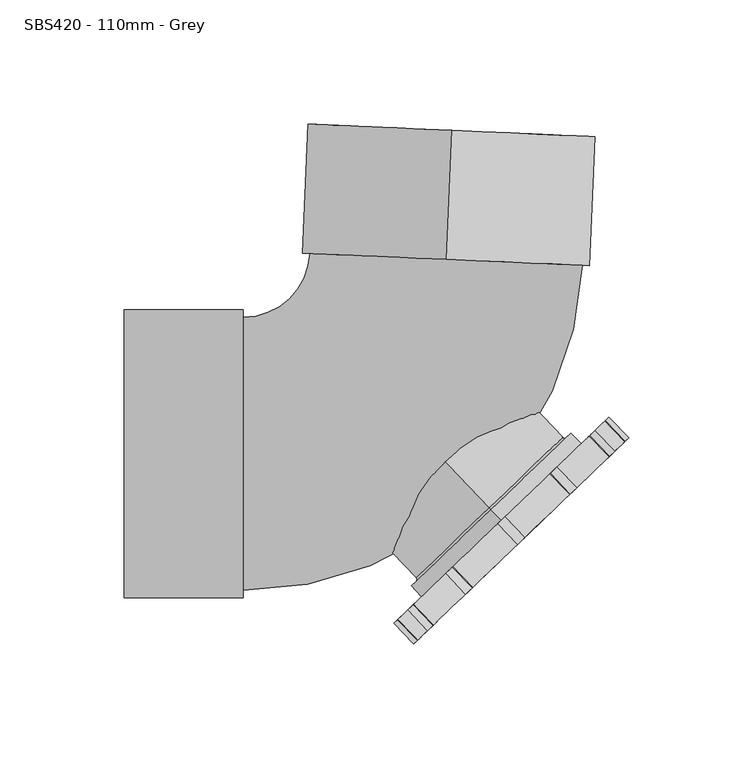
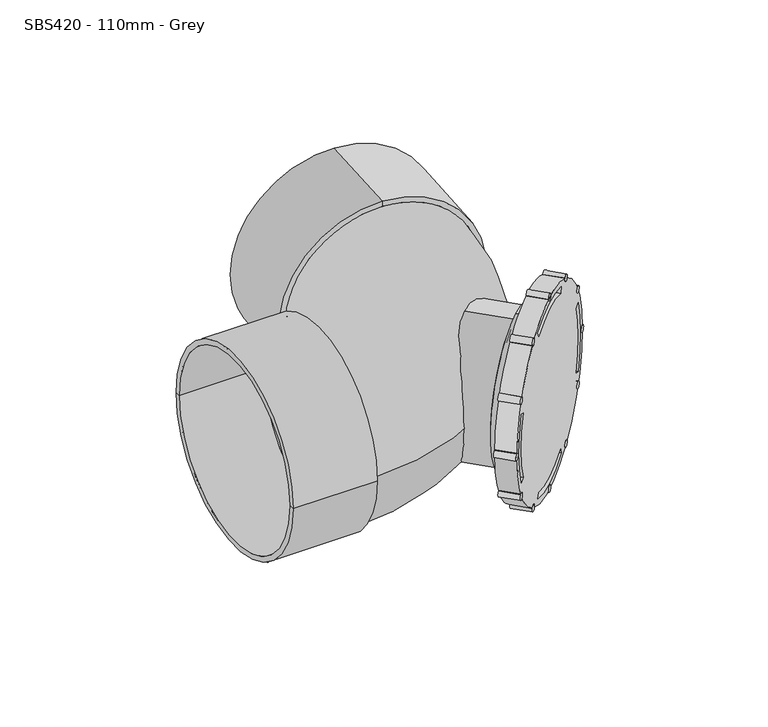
"""IFC4 building model written with IfcOpenShell, lengths in millimetres: pipe fitting geometry, MarleyPlumbingAndDrainage_PipeFitting_RearAccessBend87-5 : SBS420 - 110mm - Grey."""

from ifc_helpers import new_model, si_unit, point, frame, frame_2d, origin, place, context, project, spatial, polyline, circle_curve, ellipse_curve, trimmed, segment, composite_curve, outline, extrude, source, transform, mapped, element, save
from ifc_brep_helpers import plane_surface, cylinder_surface, revolved_surface, advanced_brep


def sbs420_110mm_grey_e3ce7930(model_context):
    return source(origin(), model_context, "Body", "SolidModel", [
        extrude(outline(composite_curve([segment(trimmed(circle_curve(frame_2d((-1e-07, -2.0)), 2.0), [point((-1e-07, -4.0))], [point((0.0, 0.0))], False, "CARTESIAN"), True, "CONTINUOUS"), segment(trimmed(circle_curve(frame_2d((-1e-07, -2.0)), 2.0), [point((0.0, 0.0))], [point((-1e-07, -4.0))], False, "CARTESIAN"), True, "CONTINUOUS")], self_intersect=False)), frame((69.0624587, 0.3028879, 27.2679492), z_axis=(-0.6915130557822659, 0.7223639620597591, 0.0), x_axis=(0.6255855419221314, 0.5988678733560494, 0.4999999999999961)), (0.0, 0.0, 1.0), 11.5),
        extrude(outline(composite_curve([segment(trimmed(circle_curve(frame_2d((0.0, -2.0)), 2.0), [point((0.0, -4.0))], [point((0.0, 0.0))], False, "CARTESIAN"), True, "CONTINUOUS"), segment(trimmed(circle_curve(frame_2d((0.0, -2.0)), 2.0), [point((0.0, 0.0))], [point((0.0, -4.0))], False, "CARTESIAN"), True, "CONTINUOUS")], self_intersect=False)), frame((73.9532431, 4.9847954, -2.0), z_axis=(-0.6915130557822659, 0.7223639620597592, 0.0), x_axis=(0.7223639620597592, 0.6915130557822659, 0.0)), (0.0, 0.0, 1.0), 11.5),
        extrude(outline(composite_curve([segment(trimmed(circle_curve(frame_2d((1e-07, -2.0)), 2.0), [point((1e-07, -4.0))], [point((0.0, 0.0))], False, "CARTESIAN"), True, "CONTINUOUS"), segment(trimmed(circle_curve(frame_2d((1e-07, -2.0)), 2.0), [point((0.0, 0.0))], [point((1e-07, -4.0))], False, "CARTESIAN"), True, "CONTINUOUS")], self_intersect=False)), frame((67.6177307, -1.0801383, -30.7320508), z_axis=(-0.6915130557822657, 0.7223639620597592, 0.0), x_axis=(0.6255855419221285, 0.5988678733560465, -0.5000000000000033)), (0.0, 0.0, 1.0), 11.5),
        extrude(outline(composite_curve([segment(trimmed(circle_curve(frame_2d((0.0, -2.0)), 2.0), [point((0.0, -4.0))], [point((0.0, 0.0))], False, "CARTESIAN"), True, "CONTINUOUS"), segment(trimmed(circle_curve(frame_2d((0.0, -2.0)), 2.0), [point((0.0, 0.0))], [point((0.0, -4.0))], False, "CARTESIAN"), True, "CONTINUOUS")], self_intersect=False)), frame((51.7535171, -16.266819, -51.2294734), z_axis=(-0.6915130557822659, 0.7223639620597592, 0.0), x_axis=(0.3611819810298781, 0.3457565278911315, -0.8660254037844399)), (0.0, 0.0, 1.0), 11.5),
        extrude(outline(composite_curve([segment(trimmed(circle_curve(frame_2d((0.0, -2.0)), 2.0), [point((0.0, -4.0000001))], [point((0.0, 0.0))], False, "CARTESIAN"), True, "CONTINUOUS"), segment(trimmed(circle_curve(frame_2d((0.0, -2.0)), 2.0), [point((0.0, 0.0))], [point((0.0, -4.0000001))], False, "CARTESIAN"), True, "CONTINUOUS")], self_intersect=False)), frame((30.6114053, -36.505988, -58.0), z_axis=(-0.6915130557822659, 0.7223639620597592, 0.0), x_axis=(0.0, 0.0, -1.0)), (0.0, 0.0, 1.0), 11.5),
        extrude(outline(composite_curve([segment(trimmed(circle_curve(frame_2d((0.0, -2.0)), 2.0), [point((0.0, -4.0))], [point((0.0, 0.0))], False, "CARTESIAN"), True, "CONTINUOUS"), segment(trimmed(circle_curve(frame_2d((0.0, -2.0)), 2.0), [point((0.0, 0.0))], [point((0.0, -4.0))], False, "CARTESIAN"), True, "CONTINUOUS")], self_intersect=False)), frame((9.8564073, -56.3745762, -49.2294734), z_axis=(-0.6915130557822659, 0.7223639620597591, 0.0), x_axis=(-0.3611819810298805, -0.34575652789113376, -0.866025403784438)), (0.0, 0.0, 1.0), 11.5),
        extrude(outline(composite_curve([segment(trimmed(circle_curve(frame_2d((0.0, -2.0)), 2.0), [point((0.0, -4.0))], [point((0.0, 0.0))], False, "CARTESIAN"), True, "CONTINUOUS"), segment(trimmed(circle_curve(frame_2d((0.0, -2.0)), 2.0), [point((0.0, 0.0))], [point((0.0, -4.0))], False, "CARTESIAN"), True, "CONTINUOUS")], self_intersect=False)), frame((-4.9501921, -70.5488116, -27.2679492), z_axis=(-0.6915130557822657, 0.7223639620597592, 0.0), x_axis=(-0.6255855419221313, -0.5988678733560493, -0.4999999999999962)), (0.0, 0.0, 1.0), 11.5),
        extrude(outline(composite_curve([segment(trimmed(circle_curve(frame_2d((0.0, -2.0)), 2.0), [point((0.0, -4.0))], [point((0.0, 0.0))], False, "CARTESIAN"), True, "CONTINUOUS"), segment(trimmed(circle_curve(frame_2d((0.0, -2.0)), 2.0), [point((0.0, 0.0))], [point((0.0, -4.0))], False, "CARTESIAN"), True, "CONTINUOUS")], self_intersect=False)), frame((-9.8409765, -75.2307191, 2.0), z_axis=(-0.6915130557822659, 0.7223639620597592, 0.0), x_axis=(-0.7223639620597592, -0.6915130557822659, 0.0)), (0.0, 0.0, 1.0), 11.5),
        extrude(outline(composite_curve([segment(trimmed(circle_curve(frame_2d((0.0, -2.0)), 2.0), [point((0.0, -4.0))], [point((0.0, 0.0))], False, "CARTESIAN"), True, "CONTINUOUS"), segment(trimmed(circle_curve(frame_2d((0.0, -2.0)), 2.0), [point((0.0, 0.0))], [point((0.0, -4.0))], False, "CARTESIAN"), True, "CONTINUOUS")], self_intersect=False)), frame((-3.5054642, -69.1657855, 30.7320508), z_axis=(-0.6915130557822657, 0.7223639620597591, 0.0), x_axis=(-0.6255855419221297, -0.5988678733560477, 0.5000000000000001)), (0.0, 0.0, 1.0), 11.5),
        extrude(outline(composite_curve([segment(trimmed(circle_curve(frame_2d((0.0, -2.0)), 2.0), [point((0.0, -4.0))], [point((0.0, 0.0))], False, "CARTESIAN"), True, "CONTINUOUS"), segment(trimmed(circle_curve(frame_2d((0.0, -2.0)), 2.0), [point((0.0, 0.0))], [point((0.0, -4.0))], False, "CARTESIAN"), True, "CONTINUOUS")], self_intersect=False)), frame((12.3587495, -53.9791047, 51.2294734), z_axis=(-0.6915130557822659, 0.7223639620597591, 0.0), x_axis=(-0.3611819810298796, -0.3457565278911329, 0.8660254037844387)), (0.0, 0.0, 1.0), 11.5),
        extrude(outline(composite_curve([segment(trimmed(circle_curve(frame_2d((0.0, -2.0)), 2.0), [point((0.0, -4.0))], [point((0.0, 0.0))], False, "CARTESIAN"), True, "CONTINUOUS"), segment(trimmed(circle_curve(frame_2d((0.0, -2.0)), 2.0), [point((0.0, 0.0))], [point((0.0, -4.0))], False, "CARTESIAN"), True, "CONTINUOUS")], self_intersect=False)), frame((54.2558593, -13.8713475, 49.2294734), z_axis=(-0.6915130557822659, 0.7223639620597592, 0.0), x_axis=(0.36118198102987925, 0.3457565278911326, 0.8660254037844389)), (0.0, 0.0, 1.0), 11.5),
        extrude(outline(composite_curve([segment(trimmed(circle_curve(frame_2d((0.0, -2.0)), 2.0), [point((0.0, -4.0000001))], [point((0.0, 0.0))], False, "CARTESIAN"), True, "CONTINUOUS"), segment(trimmed(circle_curve(frame_2d((0.0, -2.0)), 2.0), [point((0.0, 0.0))], [point((0.0, -4.0000001))], False, "CARTESIAN"), True, "CONTINUOUS")], self_intersect=False)), frame((33.5008612, -33.7399357, 58.0), z_axis=(-0.6915130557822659, 0.7223639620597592, 0.0), x_axis=(0.0, 0.0, 1.0)), (0.0, 0.0, 1.0), 11.5),
        advanced_brep(
        [(-9.8409765, -75.2307191, 0.0), (73.9532431, 4.9847954, 0.0), (16.990332, -49.545329, -50.3514345), (17.9578605, -48.6191219, -47.1178562), (46.154406, -21.6268018, -47.1178562), (47.1219345, -20.7005947, -50.3514345), (68.428195, -0.3042875, -20.8562471), (66.0923745, -2.5403492, -19.5168551), (66.0923745, -2.5403492, 19.5168551), (68.428195, -0.3042875, 20.8562471), (-1.980108, -67.7055745, 19.5168551), (-1.980108, -67.7055745, -19.5168551), (-4.3159285, -69.9416362, -20.8562471), (-4.3159285, -69.9416362, 20.8562471), (17.9578605, -48.6191219, 47.1178562), (16.990332, -49.545329, 50.3514345), (47.1219345, -20.7005947, 50.3514345), (46.154406, -21.6268018, 47.1178562), (-17.7933767, -66.9235335, 0.0), (66.0008429, 13.2919809, 0.0), (24.1037331, -26.8157763, -44.5), (24.1037331, -26.8157763, 44.5), (19.9546548, -22.4815925, -44.5), (19.9546548, -22.4815925, 44.5), (19.9546548, -22.4815925, -42.0), (19.9546548, -22.4815925, 42.0), (19.2631417, -21.7592286, -41.0), (19.2631417, -21.7592286, 41.0), (-9.4346501, 8.2188759, -41.0), (-9.4346501, 8.2188759, 41.0), (-9.4346501, 8.2188759, 0.0), (13.3200776, -43.7744307, -47.1178562), (12.3525491, -44.7006378, -50.3514345), (42.4841516, -15.8559035, -50.3514345), (41.5166231, -16.7821106, -47.1178562), (61.4545916, 2.3043421, -19.5168551), (63.7904121, 4.5404037, -20.8562471), (63.7904121, 4.5404037, 20.8562471), (61.4545916, 2.3043421, 19.5168551), (-6.6178909, -62.8608833, -19.5168551), (-6.6178909, -62.8608833, 19.5168551), (-8.9537114, -65.096945, 20.8562471), (-8.9537114, -65.096945, -20.8562471), (12.3525491, -44.7006378, 50.3514345), (13.3200776, -43.7744307, 47.1178562), (41.5166231, -16.7821106, 47.1178562), (42.4841516, -15.8559035, 50.3514345)],
        [
            (0, 1, circle_curve(frame((32.0561333, -35.1229619, 0.0), z_axis=(0.6915130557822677, -0.7223639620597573, 0.0), x_axis=(0.7223639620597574, 0.6915130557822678, 0.0)), 58.0)),
            (1, 0, circle_curve(frame((32.0561333, -35.1229619, 0.0), z_axis=(0.6915130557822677, -0.7223639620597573, 0.0), x_axis=(0.7223639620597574, 0.6915130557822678, 0.0)), 58.0)),
            (2, 3),
            (3, 4, circle_curve(frame((32.0561333, -35.1229619, 0.0), z_axis=(0.6915130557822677, -0.7223639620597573, 0.0), x_axis=(0.7223639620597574, 0.6915130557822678, 0.0)), 51.0)),
            (4, 5),
            (5, 2, circle_curve(frame((32.0561333, -35.1229619, 0.0), z_axis=(-0.6915130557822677, 0.7223639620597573, 0.0), x_axis=(0.7223639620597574, 0.6915130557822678, 0.0)), 54.5)),
            (6, 7),
            (7, 8, circle_curve(frame((32.0561333, -35.1229619, 0.0), z_axis=(0.6915130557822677, -0.7223639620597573, 0.0), x_axis=(0.7223639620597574, 0.6915130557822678, 0.0)), 51.0)),
            (8, 9),
            (9, 6, circle_curve(frame((32.0561333, -35.1229619, 0.0), z_axis=(-0.6915130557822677, 0.7223639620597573, 0.0), x_axis=(0.7223639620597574, 0.6915130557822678, 0.0)), 54.5)),
            (10, 11, circle_curve(frame((32.0561333, -35.1229619, 0.0), z_axis=(0.6915130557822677, -0.7223639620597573, 0.0), x_axis=(0.7223639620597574, 0.6915130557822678, 0.0)), 51.0)),
            (11, 12),
            (12, 13, circle_curve(frame((32.0561333, -35.1229619, 0.0), z_axis=(-0.6915130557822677, 0.7223639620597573, 0.0), x_axis=(0.7223639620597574, 0.6915130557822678, 0.0)), 54.5)),
            (13, 10),
            (14, 15),
            (15, 16, circle_curve(frame((32.0561333, -35.1229619, 0.0), z_axis=(-0.6915130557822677, 0.7223639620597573, 0.0), x_axis=(0.7223639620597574, 0.6915130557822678, 0.0)), 54.5)),
            (16, 17),
            (17, 14, circle_curve(frame((32.0561333, -35.1229619, 0.0), z_axis=(0.6915130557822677, -0.7223639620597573, 0.0), x_axis=(0.7223639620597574, 0.6915130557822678, 0.0)), 51.0)),
            (18, 19, circle_curve(frame((24.1037331, -26.8157763, 0.0), z_axis=(-0.6915130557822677, 0.7223639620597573, 0.0), x_axis=(0.7223639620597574, 0.6915130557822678, 0.0)), 58.0)),
            (19, 18, circle_curve(frame((24.1037331, -26.8157763, 0.0), z_axis=(-0.6915130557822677, 0.7223639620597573, 0.0), x_axis=(0.7223639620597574, 0.6915130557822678, 0.0)), 58.0)),
            (20, 21, circle_curve(frame((24.1037331, -26.8157763, 0.0), z_axis=(0.6915130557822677, -0.7223639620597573, 0.0), x_axis=(0.0, 0.0, 1.0000000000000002)), 44.5)),
            (21, 20, circle_curve(frame((24.1037331, -26.8157763, 0.0), z_axis=(0.6915130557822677, -0.7223639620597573, 0.0), x_axis=(0.0, 0.0, 1.0000000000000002)), 44.5)),
            (0, 18),
            (19, 1),
            (22, 23, circle_curve(frame((19.9546548, -22.4815925, 0.0), z_axis=(0.6915130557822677, -0.7223639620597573, 0.0), x_axis=(0.0, 0.0, 1.0000000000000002)), 44.5)),
            (23, 21),
            (20, 22),
            (23, 22, circle_curve(frame((19.9546548, -22.4815925, 0.0), z_axis=(0.6915130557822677, -0.7223639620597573, 0.0), x_axis=(0.0, 0.0, 1.0000000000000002)), 44.5)),
            (22, 24),
            (24, 25, circle_curve(frame((19.9546548, -22.4815925, 0.0), z_axis=(0.6915130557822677, -0.7223639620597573, 0.0), x_axis=(0.0, 0.0, 1.0000000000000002)), 42.0)),
            (25, 23),
            (25, 24, circle_curve(frame((19.9546548, -22.4815925, 0.0), z_axis=(0.6915130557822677, -0.7223639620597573, 0.0), x_axis=(0.0, 0.0, 1.0000000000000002)), 42.0)),
            (24, 26, circle_curve(frame((19.2631417, -21.7592286, -42.0), z_axis=(-0.7223639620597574, -0.6915130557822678, 0.0), x_axis=(0.6915130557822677, -0.7223639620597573, 0.0)), 1.0)),
            (26, 27, circle_curve(frame((19.2631417, -21.7592286, 0.0), z_axis=(0.6915130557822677, -0.7223639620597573, 0.0), x_axis=(0.0, 0.0, 1.0000000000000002)), 41.0)),
            (27, 25, circle_curve(frame((19.2631417, -21.7592286, 42.0), z_axis=(-0.7223639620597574, -0.6915130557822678, 0.0), x_axis=(0.6915130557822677, -0.7223639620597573, 0.0)), 1.0)),
            (27, 26, circle_curve(frame((19.2631417, -21.7592286, 0.0), z_axis=(0.6915130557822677, -0.7223639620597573, 0.0), x_axis=(0.0, 0.0, 1.0000000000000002)), 41.0)),
            (26, 28),
            (28, 29, circle_curve(frame((-9.4346501, 8.2188759, 0.0), z_axis=(0.6915130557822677, -0.7223639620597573, 0.0), x_axis=(0.0, 0.0, 1.0000000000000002)), 41.0)),
            (29, 27),
            (29, 28, circle_curve(frame((-9.4346501, 8.2188759, 0.0), z_axis=(0.6915130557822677, -0.7223639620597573, 0.0), x_axis=(0.0, 0.0, 1.0000000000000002)), 41.0)),
            (28, 30),
            (30, 29),
            (31, 32),
            (32, 33, circle_curve(frame((27.4183504, -30.2782706, 0.0), z_axis=(0.6915130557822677, -0.7223639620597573, 0.0), x_axis=(0.7223639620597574, 0.6915130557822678, 0.0)), 54.5)),
            (33, 34),
            (34, 31, circle_curve(frame((27.4183504, -30.2782706, 0.0), z_axis=(-0.6915130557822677, 0.7223639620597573, 0.0), x_axis=(0.7223639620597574, 0.6915130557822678, 0.0)), 51.0)),
            (35, 36),
            (36, 37, circle_curve(frame((27.4183504, -30.2782706, 0.0), z_axis=(0.6915130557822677, -0.7223639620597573, 0.0), x_axis=(0.7223639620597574, 0.6915130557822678, 0.0)), 54.5)),
            (37, 38),
            (38, 35, circle_curve(frame((27.4183504, -30.2782706, 0.0), z_axis=(-0.6915130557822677, 0.7223639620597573, 0.0), x_axis=(0.7223639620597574, 0.6915130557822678, 0.0)), 51.0)),
            (39, 40, circle_curve(frame((27.4183504, -30.2782706, 0.0), z_axis=(-0.6915130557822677, 0.7223639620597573, 0.0), x_axis=(0.7223639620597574, 0.6915130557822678, 0.0)), 51.0)),
            (40, 41),
            (41, 42, circle_curve(frame((27.4183504, -30.2782706, 0.0), z_axis=(0.6915130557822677, -0.7223639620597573, 0.0), x_axis=(0.7223639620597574, 0.6915130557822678, 0.0)), 54.5)),
            (42, 39),
            (43, 44),
            (44, 45, circle_curve(frame((27.4183504, -30.2782706, 0.0), z_axis=(-0.6915130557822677, 0.7223639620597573, 0.0), x_axis=(0.7223639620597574, 0.6915130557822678, 0.0)), 51.0)),
            (45, 46),
            (46, 43, circle_curve(frame((27.4183504, -30.2782706, 0.0), z_axis=(0.6915130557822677, -0.7223639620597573, 0.0), x_axis=(0.7223639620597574, 0.6915130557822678, 0.0)), 54.5)),
            (31, 3),
            (2, 32),
            (5, 33),
            (4, 34),
            (35, 7),
            (6, 36),
            (9, 37),
            (8, 38),
            (39, 11),
            (10, 40),
            (13, 41),
            (12, 42),
            (43, 15),
            (14, 44),
            (17, 45),
            (16, 46),
        ],
        [
            plane_surface(frame((73.9532431, 4.9847954, 0.0), z_axis=(0.6915130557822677, -0.7223639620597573, 0.0), x_axis=(0.0, 0.0, 1.0))),
            plane_surface(frame((66.0008429, 13.2919809, 0.0), z_axis=(-0.6915130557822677, 0.7223639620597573, 0.0), x_axis=(0.0, 0.0, -1.0))),
            cylinder_surface(frame((24.1037331, -26.8157763, 0.0), z_axis=(0.6915130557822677, -0.7223639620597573, 0.0), x_axis=(0.7223639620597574, 0.6915130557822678, 0.0)), 58.0),
            cylinder_surface(frame((-810.4447501, 844.9649426, 0.0), z_axis=(-0.6915130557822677, 0.7223639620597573, 0.0), x_axis=(0.0, 0.0, 1.0000000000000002)), 44.5),
            plane_surface(frame((19.9546548, -22.4815925, 0.0), z_axis=(-0.6915130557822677, 0.7223639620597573, 0.0), x_axis=(0.0, 0.0, 1.0))),
            revolved_surface(trimmed(ellipse_curve(frame((19.2631417, -21.7592286, 42.0), z_axis=(0.7223639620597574, 0.6915130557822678, 0.0), x_axis=(0.6915130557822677, -0.7223639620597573, 0.0)), 1.0, 1.0), [point((19.9546548, -22.4815925, 42.0))], [point((19.2631417, -21.7592286, 41.0))], True, "CARTESIAN"), (-810.4447501, 844.9649426, 0.0), (-0.6915130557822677, 0.7223639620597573, 0.0)),
            cylinder_surface(frame((-810.4447501, 844.9649426, 0.0), z_axis=(-0.6915130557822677, 0.7223639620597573, 0.0), x_axis=(0.0, 0.0, 1.0000000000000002)), 41.0),
            plane_surface(frame((-9.4346501, 8.2188759, 0.0), z_axis=(-0.6915130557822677, 0.7223639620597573, 0.0), x_axis=(0.0, 0.0, 1.0))),
            plane_surface(frame((12.3525491, -44.7006378, -50.3514345), z_axis=(0.6915130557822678, -0.7223639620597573, 0.0), x_axis=(0.2764367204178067, 0.2646305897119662, 0.923879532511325))),
            plane_surface(frame((17.9578605, -48.6191219, -47.1178562), z_axis=(0.6673772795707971, 0.6388747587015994, -0.3826834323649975), x_axis=(-0.6915130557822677, 0.7223639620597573, 0.0))),
            revolved_surface(polyline([(71.4249692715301, 2.564499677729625, 0.0), (66.78718632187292, 7.409190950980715, 0.0)]), (27.4183504, -30.2782706, 0.0), (0.6915130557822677, -0.7223639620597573, 0.0)),
            plane_surface(frame((47.1219345, -20.7005947, -50.3514345), z_axis=(-0.6673772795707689, -0.6388747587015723, -0.38268343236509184), x_axis=(-0.6915130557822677, 0.7223639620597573, 0.0))),
            cylinder_surface(frame((27.4183504, -30.2782706, 0.0), z_axis=(-0.6915130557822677, 0.7223639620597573, 0.0), x_axis=(0.7223639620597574, 0.6915130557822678, 0.0)), 51.0),
            plane_surface(frame((66.0923745, -2.5403492, -19.5168551), z_axis=(0.2764367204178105, 0.26463058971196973, 0.9238795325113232), x_axis=(-0.6915130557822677, 0.7223639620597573, 0.0))),
            revolved_surface(polyline([(71.42496921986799, 2.564499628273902, 0.0), (66.78718628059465, 7.409190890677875, 0.0)]), (24.1037331, -26.8157763, 0.0), (0.6915130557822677, -0.7223639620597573, 0.0)),
            plane_surface(frame((68.428195, -0.3042875, 20.8562471), z_axis=(0.27643672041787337, 0.26463058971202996, -0.9238795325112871), x_axis=(-0.6915130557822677, 0.7223639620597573, 0.0))),
            cylinder_surface(frame((24.1037331, -26.8157763, 0.0), z_axis=(-0.6915130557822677, 0.7223639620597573, 0.0), x_axis=(0.7223639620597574, 0.6915130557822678, 0.0)), 51.0),
            plane_surface(frame((-1.980108, -67.7055745, 19.5168551), z_axis=(-0.2764367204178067, -0.2646305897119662, -0.9238795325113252), x_axis=(-0.6915130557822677, 0.7223639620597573, 0.0))),
            revolved_surface(polyline([(71.42496921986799, 2.564499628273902, 0.0), (66.78718627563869, 7.409190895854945, 0.0)]), (24.1037331, -26.8157763, 0.0), (0.6915130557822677, -0.7223639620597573, 0.0)),
            plane_surface(frame((-4.3159285, -69.9416362, -20.8562471), z_axis=(-0.27643672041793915, -0.2646305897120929, 0.9238795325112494), x_axis=(-0.6915130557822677, 0.7223639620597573, 0.0))),
            plane_surface(frame((16.990332, -49.545329, 50.3514345), z_axis=(0.6673772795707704, 0.6388747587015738, 0.38268343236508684), x_axis=(-0.6915130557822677, 0.7223639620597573, 0.0))),
            plane_surface(frame((46.154406, -21.6268018, 47.1178562), z_axis=(-0.667377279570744, -0.6388747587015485, 0.382683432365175), x_axis=(-0.6915130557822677, 0.7223639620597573, 0.0))),
            revolved_surface(polyline([(71.42496921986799, 2.564499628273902, 0.0), (66.78718627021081, 7.409190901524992, 0.0)]), (24.1037331, -26.8157763, 0.0), (0.6915130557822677, -0.7223639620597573, 0.0)),
        ],
        [
            (0, [[1, 2], [3, 4, 5, 6], [7, 8, 9, 10], [11, 12, 13, 14], [15, 16, 17, 18]]),
            (1, [[19, 20], [21, 22]]),
            (2, [[-1, 23, -20, 24]]),
            (2, [[-2, -24, -19, -23]]),
            (3, [[25, 26, -21, 27]]),
            (3, [[-26, 28, -27, -22]]),
            (4, [[-25, 29, 30, 31]]),
            (4, [[-28, -31, 32, -29]]),
            (5, [[-30, 33, 34, 35]]),
            (5, [[-32, -35, 36, -33]]),
            (6, [[-34, 37, 38, 39]]),
            (6, [[-36, -39, 40, -37]]),
            (7, [[-38, 41, 42]]),
            (7, [[-40, -42, -41]]),
            (8, [[43, 44, 45, 46]]),
            (8, [[47, 48, 49, 50]]),
            (8, [[51, 52, 53, 54]]),
            (8, [[55, 56, 57, 58]]),
            (9, [[-43, 59, -3, 60]]),
            (10, [[-44, -60, -6, 61]]),
            (11, [[-45, -61, -5, 62]]),
            (12, [[-46, -62, -4, -59]]),
            (13, [[-47, 63, -7, 64]]),
            (14, [[-48, -64, -10, 65]]),
            (15, [[-49, -65, -9, 66]]),
            (16, [[-50, -66, -8, -63]]),
            (16, [[-51, 67, -11, 68]]),
            (17, [[-52, -68, -14, 69]]),
            (18, [[-53, -69, -13, 70]]),
            (19, [[-54, -70, -12, -67]]),
            (20, [[-55, 71, -15, 72]]),
            (16, [[-56, -72, -18, 73]]),
            (21, [[-57, -73, -17, 74]]),
            (22, [[-58, -74, -16, -71]]),
        ],
    ),
        advanced_brep(
        [(4.1212757, 130.2780797, -55.1429746), (4.1212757, 130.2780797, 54.8570254), (4.1212757, 130.2780797, 57.8570254), (4.1212757, 130.2780797, -58.1429746), (1.8530676, 78.3275722, -55.1429746), (1.8530676, 78.3275722, 54.8570254), (1.8530676, 78.3275722, -58.1429746), (1.8530676, 78.3275722, 57.8570254)],
        [
            (0, 1, circle_curve(frame((4.1212757, 130.2780797, -0.1429746), z_axis=(-0.043619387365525, -0.9990482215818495, 0.0), x_axis=(0.0, 0.0, 1.0)), 55.0)),
            (1, 2),
            (2, 3, circle_curve(frame((4.1212757, 130.2780797, -0.1429746), z_axis=(0.043619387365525, 0.9990482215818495, 0.0), x_axis=(0.0, 0.0, 1.0)), 58.0)),
            (3, 0),
            (1, 0, circle_curve(frame((4.1212757, 130.2780797, -0.1429746), z_axis=(-0.043619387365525, -0.9990482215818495, 0.0), x_axis=(0.0, 0.0, 1.0)), 55.0)),
            (3, 2, circle_curve(frame((4.1212757, 130.2780797, -0.1429746), z_axis=(0.043619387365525, 0.9990482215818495, 0.0), x_axis=(0.0, 0.0, 1.0)), 58.0)),
            (4, 5, circle_curve(frame((1.8530676, 78.3275722, -0.1429746), z_axis=(-0.043619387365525, -0.9990482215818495, 0.0), x_axis=(0.0, 0.0, 1.0)), 55.0)),
            (5, 1),
            (0, 4),
            (5, 4, circle_curve(frame((1.8530676, 78.3275722, -0.1429746), z_axis=(-0.043619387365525, -0.9990482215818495, 0.0), x_axis=(0.0, 0.0, 1.0)), 55.0)),
            (6, 7, circle_curve(frame((1.8530676, 78.3275722, -0.1429746), z_axis=(-0.043619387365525, -0.9990482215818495, 0.0), x_axis=(0.0, 0.0, 1.0)), 58.0)),
            (7, 5),
            (4, 6),
            (7, 6, circle_curve(frame((1.8530676, 78.3275722, -0.1429746), z_axis=(-0.043619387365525, -0.9990482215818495, 0.0), x_axis=(0.0, 0.0, 1.0)), 58.0)),
            (2, 7),
            (6, 3),
        ],
        [
            plane_surface(frame((4.1212757, 130.2780797, -0.1429746), z_axis=(0.043619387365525, 0.9990482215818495, 0.0), x_axis=(0.0, 0.0, 1.0))),
            revolved_surface(polyline([(4.121275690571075, 130.2780797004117, 54.8570254), (1.85306754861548, 78.32757220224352, 54.8570254)]), (4.7755665, 145.263803, -0.1429746), (0.043619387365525, 0.9990482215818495, 0.0)),
            plane_surface(frame((1.8530676, 78.3275722, -0.1429746), z_axis=(-0.043619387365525, -0.9990482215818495, 0.0), x_axis=(0.0, 0.0, 1.0))),
            cylinder_surface(frame((4.7755665, 145.263803, -0.1429746), z_axis=(0.043619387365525, 0.9990482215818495, 0.0), x_axis=(0.0, 0.0, 1.0)), 58.0),
        ],
        [
            (0, [[1, 2, 3, 4]]),
            (0, [[5, -4, 6, -2]]),
            (1, [[7, 8, -1, 9]]),
            (1, [[10, -9, -5, -8]]),
            (2, [[11, 12, -7, 13]]),
            (2, [[14, -13, -10, -12]]),
            (3, [[-3, 15, -11, 16]]),
            (3, [[-6, -16, -14, -15]]),
        ],
    ),
        advanced_brep(
        [(-128.0689818, 55.0, -0.1429746), (-128.0689818, -55.0, -0.1429746), (-128.0689818, -58.0, -0.1429746), (-128.0689818, 58.0, -0.1429746), (-79.9689818, 55.0, -0.1429746), (-79.9689818, -55.0, -0.1429746), (-79.9689818, 58.0, -0.1429746), (-79.9689818, -58.0, -0.1429746)],
        [
            (0, 1, circle_curve(frame((-128.0689818, 0.0, -0.1429746), z_axis=(1.0, 0.0, 0.0), x_axis=(0.0, -1.0, 0.0)), 55.0)),
            (1, 2),
            (2, 3, circle_curve(frame((-128.0689818, 0.0, -0.1429746), z_axis=(-1.0, 0.0, 0.0), x_axis=(0.0, -1.0, 0.0)), 58.0)),
            (3, 0),
            (1, 0, circle_curve(frame((-128.0689818, 0.0, -0.1429746), z_axis=(1.0, 0.0, 0.0), x_axis=(0.0, -1.0, 0.0)), 55.0)),
            (3, 2, circle_curve(frame((-128.0689818, 0.0, -0.1429746), z_axis=(-1.0, 0.0, 0.0), x_axis=(0.0, -1.0, 0.0)), 58.0)),
            (4, 5, circle_curve(frame((-79.9689818, 0.0, -0.1429746), z_axis=(1.0, 0.0, 0.0), x_axis=(0.0, -1.0, 0.0)), 55.0)),
            (5, 1),
            (0, 4),
            (5, 4, circle_curve(frame((-79.9689818, 0.0, -0.1429746), z_axis=(1.0, 0.0, 0.0), x_axis=(0.0, -1.0, 0.0)), 55.0)),
            (6, 7, circle_curve(frame((-79.9689818, 0.0, -0.1429746), z_axis=(1.0, 0.0, 0.0), x_axis=(0.0, -1.0, 0.0)), 58.0)),
            (7, 5),
            (4, 6),
            (7, 6, circle_curve(frame((-79.9689818, 0.0, -0.1429746), z_axis=(1.0, 0.0, 0.0), x_axis=(0.0, -1.0, 0.0)), 58.0)),
            (2, 7),
            (6, 3),
        ],
        [
            plane_surface(frame((-128.0689818, 0.0, -0.1429746), z_axis=(-1.0, 0.0, 0.0), x_axis=(0.0, -1.0, 0.0))),
            revolved_surface(polyline([(-128.0689818, -55.0, -0.1429746), (-79.9689818, -55.0, -0.1429746)]), (-143.0689818, 0.0, -0.1429746), (-1.0, 0.0, 0.0)),
            plane_surface(frame((-79.9689818, 0.0, -0.1429746), z_axis=(1.0, 0.0, 0.0), x_axis=(0.0, -1.0, 0.0))),
            cylinder_surface(frame((-143.0689818, 0.0, -0.1429746), z_axis=(-1.0, 0.0, 0.0), x_axis=(0.0, -1.0, 0.0)), 58.0),
        ],
        [
            (0, [[1, 2, 3, 4]]),
            (0, [[5, -4, 6, -2]]),
            (1, [[7, 8, -1, 9]]),
            (1, [[10, -9, -5, -8]]),
            (2, [[11, 12, -7, 13]]),
            (2, [[14, -13, -10, -12]]),
            (3, [[-3, 15, -11, 16]]),
            (3, [[-6, -16, -14, -15]]),
        ],
    ),
        advanced_brep(
        [(-79.9689818, -55.0, 0.0), (-79.9689818, 55.0, 0.0), (56.8007198, 75.9285059, 0.0), (-53.0945846, 80.7266385, 0.0)],
        [
            (0, 1, circle_curve(frame((-79.9689818, 0.0, 0.0), z_axis=(-1.0, 0.0, 0.0), x_axis=(0.0, 1.0, 0.0)), 55.0)),
            (1, 0, circle_curve(frame((-79.9689818, 0.0, 0.0), z_axis=(-1.0, 0.0, 0.0), x_axis=(0.0, 1.0, 0.0)), 55.0)),
            (2, 3, circle_curve(frame((1.8530676, 78.3275722, 0.0), z_axis=(0.04361938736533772, 0.9990482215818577, 0.0), x_axis=(-0.9990482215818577, 0.04361938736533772, 0.0)), 55.0)),
            (3, 2, circle_curve(frame((1.8530676, 78.3275722, 0.0), z_axis=(0.04361938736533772, 0.9990482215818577, 0.0), x_axis=(-0.9990482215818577, 0.04361938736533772, 0.0)), 55.0)),
            (3, 1, circle_curve(frame((-79.9689818, 81.9, 0.0), z_axis=(0.0, 0.0, -1.0), x_axis=(0.0, -1.0, 0.0)), 26.9)),
            (0, 2, circle_curve(frame((-79.9689818, 81.9, 0.0), z_axis=(0.0, 0.0, 1.0), x_axis=(0.0, -1.0, 0.0)), 136.9)),
        ],
        [
            plane_surface(frame((-79.9689818, 0.0, 0.0), z_axis=(-1.0, 0.0, 0.0), x_axis=(0.0, 0.0, 1.0))),
            plane_surface(frame((1.8530676, 78.3275722, 0.0), z_axis=(0.04361938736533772, 0.9990482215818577, 0.0), x_axis=(0.0, 0.0, 1.0))),
            revolved_surface(trimmed(ellipse_curve(frame((-79.9689818, 0.0, 0.0), z_axis=(-1.0, 0.0, 0.0), x_axis=(0.0, 1.0, 0.0)), 55.0, 55.0), [point((-79.9689818, -55.0, 0.0))], [point((-79.9689818, 55.0, 0.0))], True, "CARTESIAN"), (-79.9689818, 81.9, 0.0), (0.0, 0.0, 1.0)),
            revolved_surface(trimmed(ellipse_curve(frame((-79.9689818, 0.0, 0.0), z_axis=(-1.0, 0.0, 0.0), x_axis=(0.0, 1.0, 0.0)), 55.0, 55.0), [point((-79.9689818, 55.0, 0.0))], [point((-79.9689818, -55.0, 0.0))], True, "CARTESIAN"), (-79.9689818, 81.9, 0.0), (0.0, 0.0, 1.0)),
        ],
        [
            (0, [[1, 2]]),
            (1, [[3, 4]]),
            (2, [[5, -1, 6, -4]]),
            (3, [[-6, -2, -5, -3]]),
        ],
    ),
    ])


if __name__ == "__main__":
    model = new_model("IFC4")
    model_context = context("Model", 3, world=origin())
    ifc_project = project(units=[si_unit("LENGTHUNIT", "METRE", prefix="MILLI")], contexts=[model_context])
    site = spatial("IfcSite", under=ifc_project)
    building = spatial("IfcBuilding", under=site)
    placement = place(None, origin())
    sbs420_110mm_grey_shape = sbs420_110mm_grey_e3ce7930(model_context)
    element("IfcPipeFitting", 1, ObjectType="MarleyPlumbingAndDrainage_PipeFitting_RearAccessBend87-5 : SBS420 - 110mm - Grey", at=placement, inside=building, context=model_context, shape_type="MappedRepresentation", body=[
        mapped(sbs420_110mm_grey_shape, transform((0.0, 0.0, 0.0), x_axis=(1.0, 0.0, 0.0), y_axis=(0.0, 1.0, 0.0), z_axis=(0.0, 0.0, 1.0))),
    ])
    save(model, "model.ifc")
